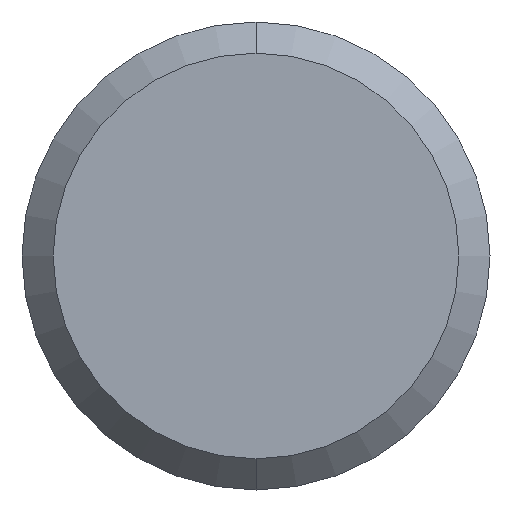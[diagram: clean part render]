
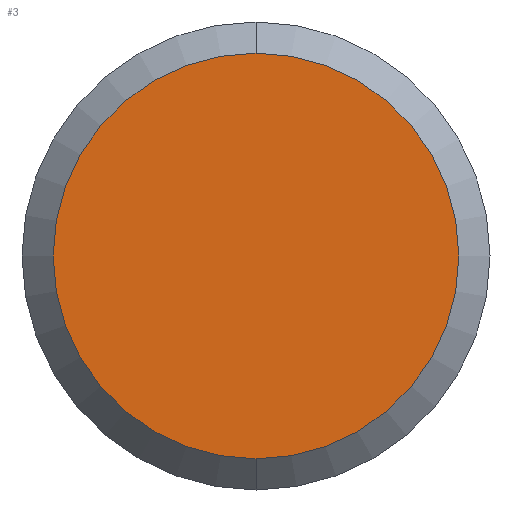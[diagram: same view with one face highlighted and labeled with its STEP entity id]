
A CAD part, front view. The second image highlights one B-rep face of the part: STEP entity #3.
In plain terms, the highlighted planar face has unit normal (0, -1, 0).
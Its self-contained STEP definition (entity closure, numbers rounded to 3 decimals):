
#3 = ADVANCED_FACE ( 'NONE', ( #264 ), #6, .F. ) ;
#6 = PLANE ( 'NONE',  #186 ) ;
#8 = EDGE_LOOP ( 'NONE', ( #240, #103 ) ) ;
#12 = CARTESIAN_POINT ( 'NONE',  ( 0., -1.95, -6.5 ) ) ;
#38 = DIRECTION ( 'NONE',  ( 0., -1., 0. ) ) ;
#43 = DIRECTION ( 'NONE',  ( 0., 0., 1. ) ) ;
#47 = DIRECTION ( 'NONE',  ( 0., 1., 0. ) ) ;
#74 = VERTEX_POINT ( 'NONE', #12 ) ;
#87 = CARTESIAN_POINT ( 'NONE',  ( 0., -1.95, 0. ) ) ;
#97 = DIRECTION ( 'NONE',  ( 0., 0., 1. ) ) ;
#103 = ORIENTED_EDGE ( 'NONE', *, *, #233, .T. ) ;
#120 = CIRCLE ( 'NONE', #259, 6.5 ) ;
#130 = CARTESIAN_POINT ( 'NONE',  ( 0., -1.95, 6.5 ) ) ;
#132 = CIRCLE ( 'NONE', #191, 6.5 ) ;
#152 = CARTESIAN_POINT ( 'NONE',  ( 0., -1.95, 0. ) ) ;
#163 = CARTESIAN_POINT ( 'NONE',  ( 0., -1.95, 0. ) ) ;
#164 = EDGE_CURVE ( 'NONE', #194, #74, #132, .T. ) ;
#186 = AXIS2_PLACEMENT_3D ( 'NONE', #163, #47, #97 ) ;
#191 = AXIS2_PLACEMENT_3D ( 'NONE', #87, #38, #206 ) ;
#194 = VERTEX_POINT ( 'NONE', #130 ) ;
#206 = DIRECTION ( 'NONE',  ( 0., 0., 1. ) ) ;
#233 = EDGE_CURVE ( 'NONE', #74, #194, #120, .T. ) ;
#240 = ORIENTED_EDGE ( 'NONE', *, *, #164, .T. ) ;
#259 = AXIS2_PLACEMENT_3D ( 'NONE', #152, #297, #43 ) ;
#264 = FACE_OUTER_BOUND ( 'NONE', #8, .T. ) ;
#297 = DIRECTION ( 'NONE',  ( 0., -1., 0. ) ) ;
